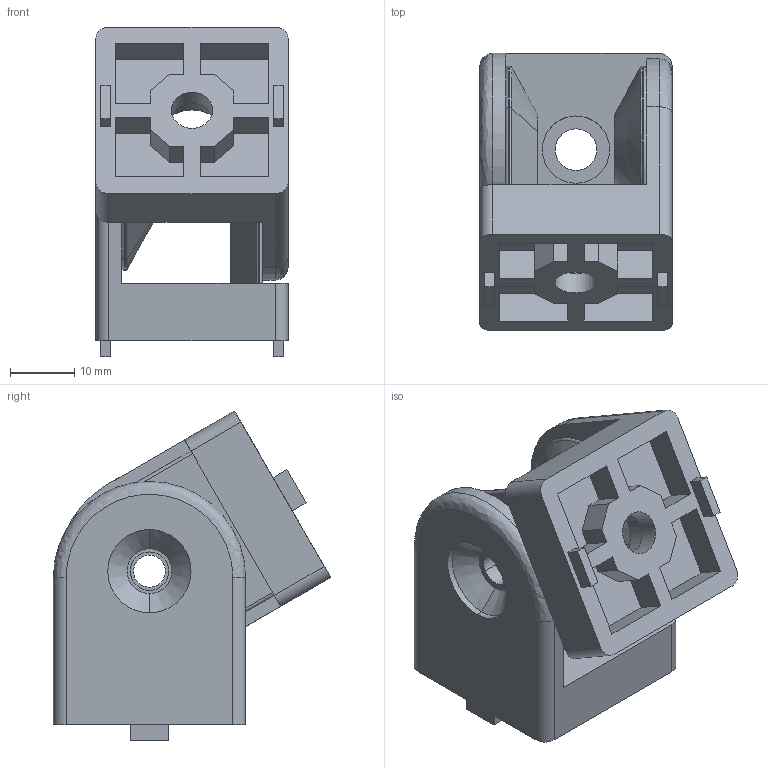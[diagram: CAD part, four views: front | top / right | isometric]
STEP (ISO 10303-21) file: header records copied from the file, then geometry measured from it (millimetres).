
FILE_DESCRIPTION (( 'STEP AP203' ), '1' );
FILE_NAME ('DAJ-06.STEP', '2018-06-25T04:01:58', ( '' ), ( '' ), 'SwSTEP 2.0', 'SolidWorks 2012', '' );
FILE_SCHEMA (( 'CONFIG_CONTROL_DESIGN' ));
Length unit declared in the file: millimetre
Products named in the file (2): DAJ-M6; DAJ-06
Assembly tree (2 placements, depth 2):
  DAJ-06
    DAJ-M6  x2
Bounding box: 30 x 43.28 x 51.49 mm (x, y, z)
Surface area: 14089.5 mm2 (no closed solid volume)
Topology: 0 solids, 4 shells, 166 faces, 418 edges, 272 vertices
Faces by surface type: plane 112, cylinder 42, cone 6, bspline 6
Entity records: 2751 total; most frequent: CARTESIAN_POINT 496, DIRECTION 423, ORIENTED_EDGE 414, EDGE_CURVE 209, VECTOR 161, LINE 161, VERTEX_POINT 136, AXIS2_PLACEMENT_3D 131
